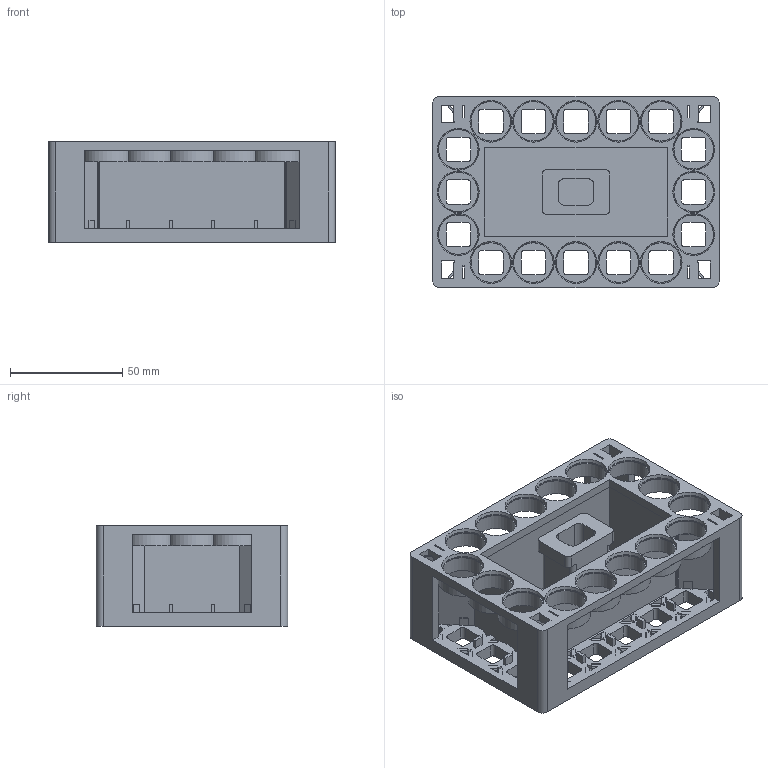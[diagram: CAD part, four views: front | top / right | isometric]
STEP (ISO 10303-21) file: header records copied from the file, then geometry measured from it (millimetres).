
FILE_DESCRIPTION(('Open CASCADE Model'),'2;1');
FILE_NAME('Open CASCADE Shape Model','2026-10-29T11:56:51',('Author'),( 'Open CASCADE'),'Open CASCADE STEP processor 7.9','Open CASCADE 7.9' ,'Unknown');
FILE_SCHEMA(('AUTOMOTIVE_DESIGN { 1 0 10303 214 1 1 1 1 }'));
Products named in the file (1): Open CASCADE STEP translator 7.9 1
Bounding box: 127.76 x 85.48 x 45 mm (x, y, z)
Volume: 112507.1 mm3; surface area: 85630.8 mm2
Topology: 1 solids, 1 shells, 1086 faces, 3164 edges, 2104 vertices
Faces by surface type: plane 850, cylinder 220, cone 16
Full cylindrical faces by diameter (mm): 17.6 x16, 18 x16
Entity records: 77825 total; most frequent: CARTESIAN_POINT 14677, DIRECTION 11645, LINE 8192, VECTOR 8192, ORIENTED_EDGE 6328, PCURVE 6328, DEFINITIONAL_REPRESENTATION 6328, EDGE_CURVE 3164
